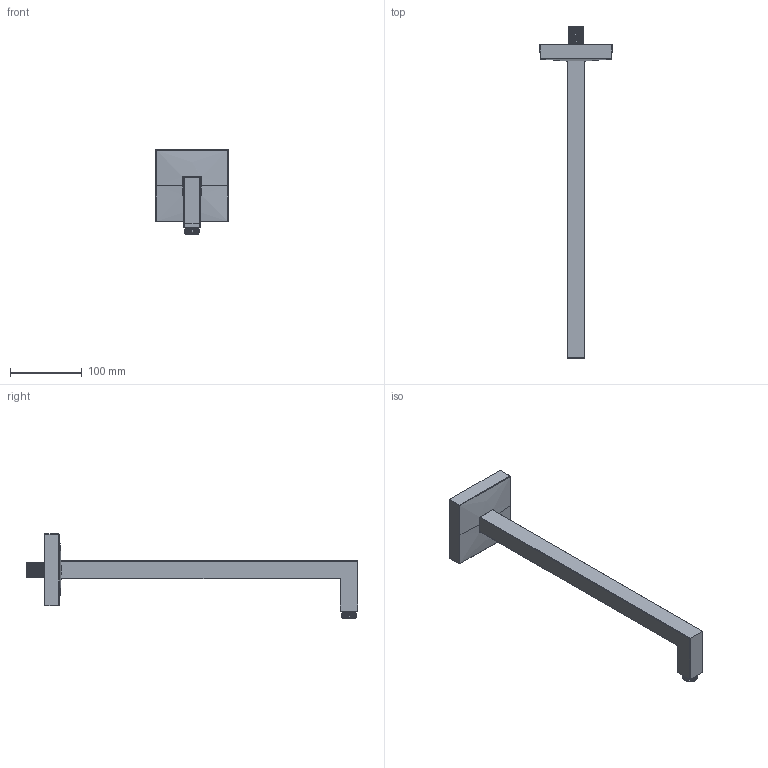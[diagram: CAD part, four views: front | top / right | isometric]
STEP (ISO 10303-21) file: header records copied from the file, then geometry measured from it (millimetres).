
FILE_DESCRIPTION (( 'STEP AP203' ), '1' );
FILE_NAME ('ARM2_42.STEP', '2019-07-25T08:49:19', ( '' ), ( '' ), 'SwSTEP 2.0', 'SolidWorks 2014', '' );
FILE_SCHEMA (( 'CONFIG_CONTROL_DESIGN' ));
Length unit declared in the file: millimetre
Products named in the file (6): A028079_13041ZZ; E073025_02100SA_ASM; A073040_00101ZZ; C021052_02100ZZ; ARM2_42; C011015_02700ZZ
Assembly tree (5 placements, depth 3):
  ARM2_42
    C021052_02100ZZ
    C011015_02700ZZ
    E073025_02100SA_ASM
      A073040_00101ZZ
      A028079_13041ZZ
Bounding box: 100.7 x 462.5 x 117.85 mm (x, y, z)
Volume: 172456.2 mm3; surface area: 157124.9 mm2
Topology: 5 solids, 5 shells, 654 faces, 1898 edges, 1256 vertices
Faces by surface type: bspline 228, plane 212, cylinder 185, cone 17, torus 12
Entity records: 39048 total; most frequent: CARTESIAN_POINT 23726, ORIENTED_EDGE 3766, DIRECTION 1956, EDGE_CURVE 1883, VERTEX_POINT 1256, B_SPLINE_CURVE_WITH_KNOTS 858, LINE 778, VECTOR 778
